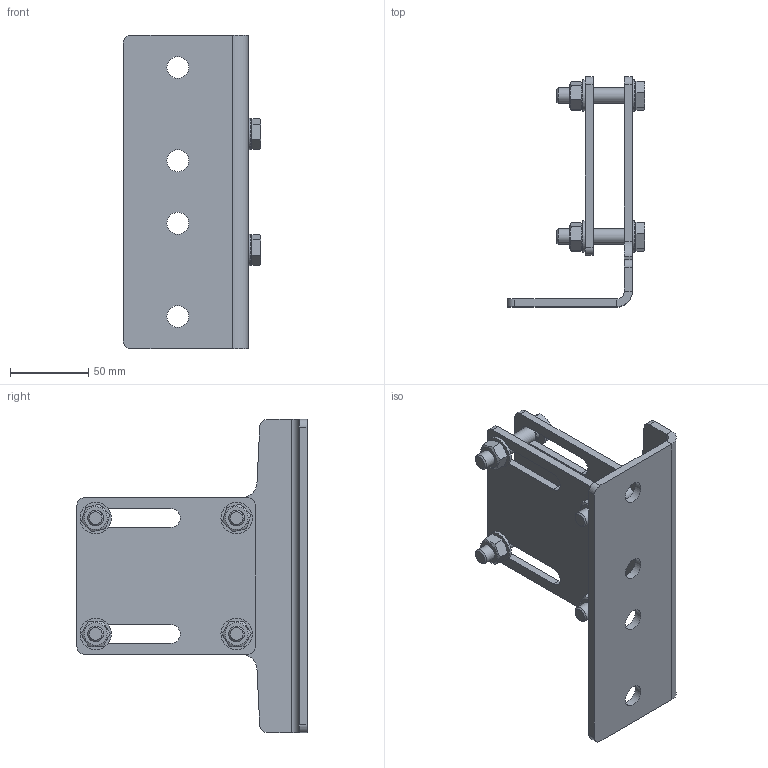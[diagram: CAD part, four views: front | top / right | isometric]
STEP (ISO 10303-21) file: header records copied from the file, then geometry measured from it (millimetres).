
FILE_DESCRIPTION(/* description */ (''),/* implementation_level */ '2;1');
FILE_NAME(/* name */ 'D:\VDV Techniek\Documents\Inventor\_ISP_Products\UDG on FlatBar\UDG FlatBarKit Clamped\STP\FlatBar 20x80mm-in-Mounting bracket.stp',/* time_stamp */ '2022-12-29T15:55:01+01:00',/* author */ ('jos'),/* organization */ (''),/* preprocessor_version */ 'ST-DEVELOPER v15.2',/* originating_system */ 'Autodesk Inventor 2014',/* authorisation */ '');
FILE_SCHEMA (('AUTOMOTIVE_DESIGN { 1 0 10303 214 3 1 1 }'));
Length unit declared in the file: millimetre
Products named in the file (6): UDG_Mounting_Bracket_universal_HDG; UDG_Counter_Plate_universal_HDG; DIN 933 - M10  x 50; DIN 126 - 11; ISO 4032 - M10DIN EN; FlatBar 20x80mm-in-Mounting bracket
Assembly tree (18 placements, depth 2):
  FlatBar 20x80mm-in-Mounting bracket
    UDG_Mounting_Bracket_universal_HDG
    UDG_Counter_Plate_universal_HDG
    DIN 933 - M10  x 50  x4
    DIN 126 - 11  x8
    ISO 4032 - M10DIN EN  x4
Bounding box: 88.1 x 147 x 200 mm (x, y, z)
Volume: 228774.5 mm3; surface area: 108236.1 mm2
Topology: 18 solids, 18 shells, 228 faces, 504 edges, 320 vertices
Faces by surface type: plane 118, cylinder 62, cone 48
Full cylindrical faces by diameter (mm): 8.376 x4, 9.188 x4, 10 x4, 11 x8, 12 x4, 14 x4, 15.4 x4, 20 x8
Entity records: 3034 total; most frequent: CARTESIAN_POINT 538, DIRECTION 520, ORIENTED_EDGE 434, EDGE_CURVE 217, AXIS2_PLACEMENT_3D 205, VERTEX_POINT 151, EDGE_LOOP 148, LINE 110
